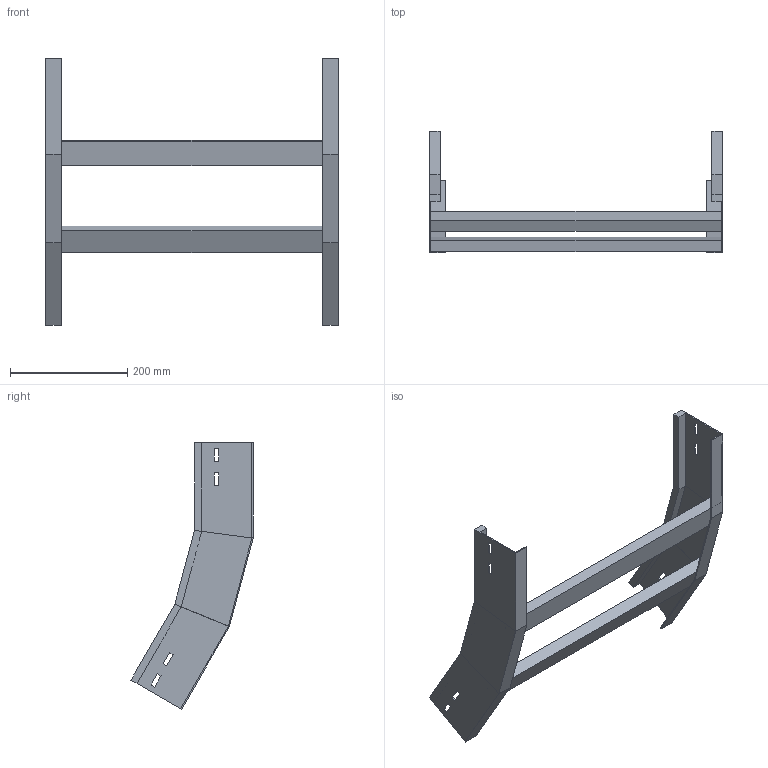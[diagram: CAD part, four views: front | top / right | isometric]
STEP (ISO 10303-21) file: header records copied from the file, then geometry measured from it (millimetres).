
FILE_DESCRIPTION (( 'STEP AP214' ), '1' );
FILE_NAME ('A2X32B5D500XX.step', '2025-03-20T09:57:39', ( '' ), ( '' ), 'SwSTEP 2.0', 'SolidWorks 2023', '' );
FILE_SCHEMA (( 'AUTOMOTIVE_DESIGN' ));
Length unit declared in the file: millimetre
Products named in the file (3): TRAVERSINO_500; A2X32B5D500XX; LONGH.SALITA_30°_H100_R500
Assembly tree (4 placements, depth 2):
  A2X32B5D500XX
    LONGH.SALITA_30°_H100_R500  x2
    TRAVERSINO_500  x2
Bounding box: 500 x 208.63 x 455.43 mm (x, y, z)
Volume: 1198081 mm3; surface area: 385587.6 mm2
Topology: 4 solids, 4 shells, 96 faces, 232 edges, 144 vertices
Faces by surface type: plane 96
Entity records: 1472 total; most frequent: CARTESIAN_POINT 243, ORIENTED_EDGE 232, DIRECTION 226, LINE 116, EDGE_CURVE 116, VECTOR 116, VERTEX_POINT 72, EDGE_LOOP 56
